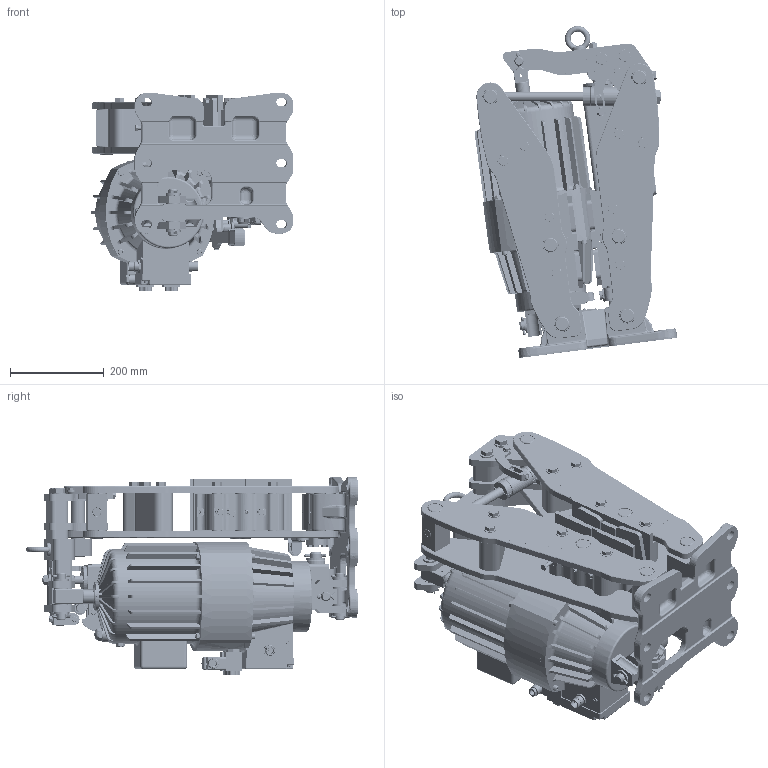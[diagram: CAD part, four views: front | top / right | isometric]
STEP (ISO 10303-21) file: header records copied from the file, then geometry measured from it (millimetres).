
FILE_DESCRIPTION((''),'2;1');
FILE_NAME('DX_230_FEA_477','2025-03-04T11:44:31',('FRMA'),(''),'CREO PARAMETRIC BY PTC INC, 2022364','CREO PARAMETRIC BY PTC INC, 2022364','');
FILE_SCHEMA(('CONFIG_CONTROL_DESIGN','SHAPE_APPEARANCE_LAYERS_GROUPS'));
Products named in the file (1): DX_230_FEA_477
Bounding box: 431.91 x 707.28 x 422.7 mm (x, y, z)
Volume: 18724197.4 mm3; surface area: 3459089.7 mm2
Topology: 2 solids, 215 shells, 11029 faces, 29608 edges, 19288 vertices
Faces by surface type: plane 5337, cylinder 3143, cone 1453, torus 782, bspline 214, extrusion 60, sphere 40
Entity records: 517618 total; most frequent: CARTESIAN_POINT 109456, ORIENTED_EDGE 58604, DIRECTION 57380, PRESENTATION_STYLE_ASSIGNMENT 35409, STYLED_ITEM 29538, CURVE_STYLE 29457, EDGE_CURVE 29457, AXIS2_PLACEMENT_3D 21378
